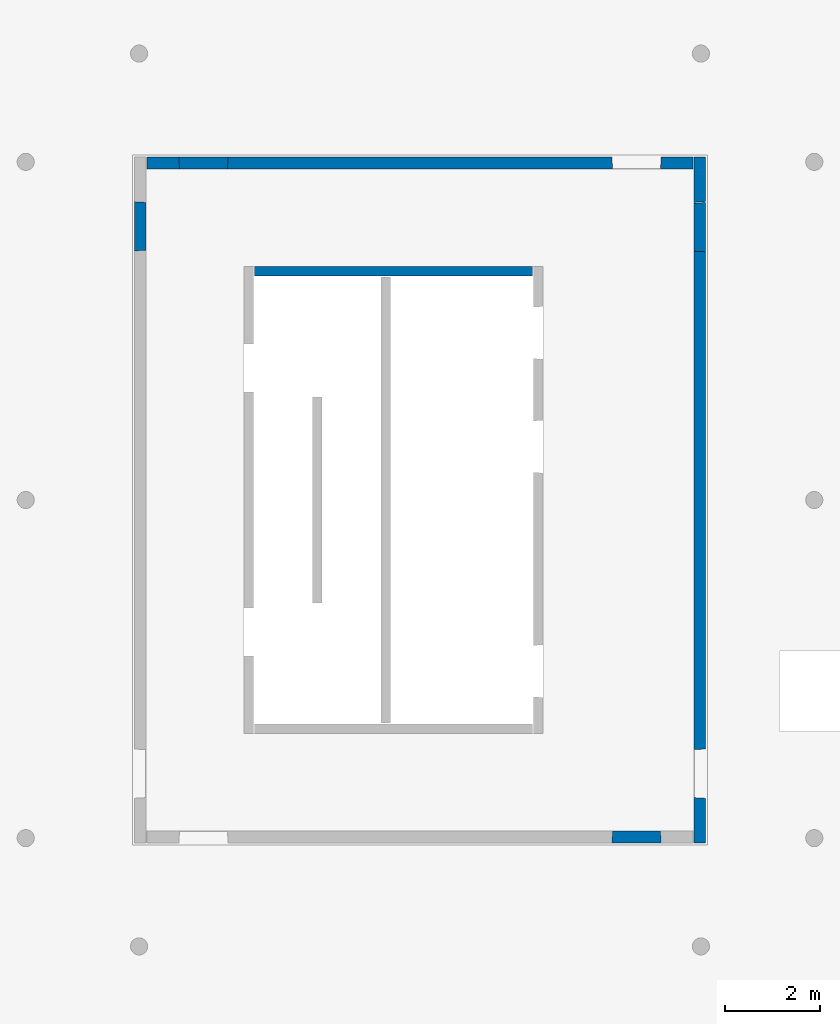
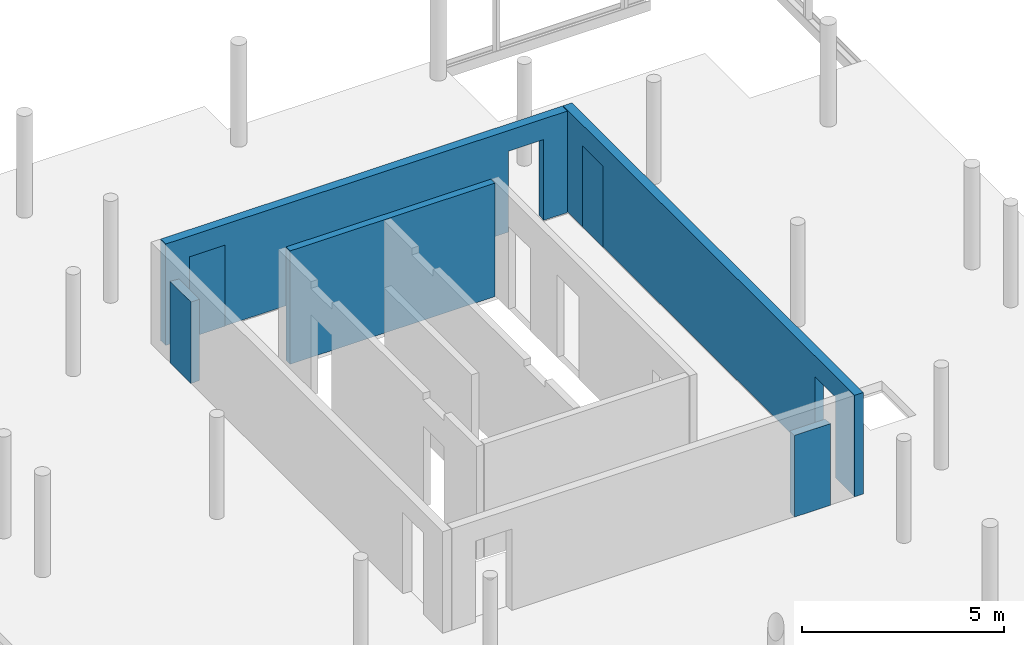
# One storey, part 6 of 7: 7 walls, 4 openings.
"""IFC2X3 building model written with IfcOpenShell, lengths in millimetres."""

from ifc_helpers import new_model, entity, si_unit, converted_unit, derived_unit, direction, frame, frame_2d, origin, place, context, subcontext, project, spatial, polyline, rectangle, extrude, clip, bounded_halfspace, faceted_brep, material, layer, layer_set, layer_usage, type_object, element, save


model = new_model("IFC2X3")

# Units and contexts
model_context = context("Model", 3, precision=0.01, world=origin(), true_north=direction((6.12303176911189e-17, 1.0)))
body_context = subcontext(model_context, "Body", "Model", "MODEL_VIEW")
ifc_project = project(units=[si_unit("LENGTHUNIT", "METRE", prefix="MILLI"), si_unit("AREAUNIT", "SQUARE_METRE"), si_unit("VOLUMEUNIT", "CUBIC_METRE"), converted_unit("PLANEANGLEUNIT", "DEGREE", entity("IfcRatioMeasure", 0.0174532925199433), si_unit("PLANEANGLEUNIT", "RADIAN"), dimensions=[0, 0, 0, 0, 0, 0, 0]), si_unit("MASSUNIT", "GRAM", prefix="KILO"), derived_unit("MASSDENSITYUNIT", [(si_unit("MASSUNIT", "GRAM", prefix="KILO"), 1), (si_unit("LENGTHUNIT", "METRE"), -3)]), si_unit("TIMEUNIT", "SECOND"), si_unit("FREQUENCYUNIT", "HERTZ"), si_unit("THERMODYNAMICTEMPERATUREUNIT", "DEGREE_CELSIUS"), derived_unit("THERMALTRANSMITTANCEUNIT", [(si_unit("MASSUNIT", "GRAM", prefix="KILO"), 1), (si_unit("THERMODYNAMICTEMPERATUREUNIT", "KELVIN"), -1), (si_unit("TIMEUNIT", "SECOND"), -3)]), derived_unit("VOLUMETRICFLOWRATEUNIT", [(si_unit("LENGTHUNIT", "METRE"), 3), (si_unit("TIMEUNIT", "SECOND"), -1)]), si_unit("ELECTRICCURRENTUNIT", "AMPERE"), si_unit("ELECTRICVOLTAGEUNIT", "VOLT"), si_unit("POWERUNIT", "WATT"), si_unit("FORCEUNIT", "NEWTON", prefix="KILO"), si_unit("ILLUMINANCEUNIT", "LUX"), si_unit("LUMINOUSFLUXUNIT", "LUMEN"), si_unit("LUMINOUSINTENSITYUNIT", "CANDELA"), derived_unit("USERDEFINED", [(si_unit("MASSUNIT", "GRAM", prefix="KILO"), -1), (si_unit("LENGTHUNIT", "METRE"), -2), (si_unit("TIMEUNIT", "SECOND"), 3), (si_unit("LUMINOUSFLUXUNIT", "LUMEN"), 1)]), derived_unit("LINEARVELOCITYUNIT", [(si_unit("LENGTHUNIT", "METRE"), 1), (si_unit("TIMEUNIT", "SECOND"), -1)]), si_unit("PRESSUREUNIT", "PASCAL"), derived_unit("USERDEFINED", [(si_unit("LENGTHUNIT", "METRE"), -2), (si_unit("MASSUNIT", "GRAM", prefix="KILO"), 1), (si_unit("TIMEUNIT", "SECOND"), -2)])], contexts=[model_context])

# Site, building, storey
site_placement = place(None, origin())
site = spatial("IfcSite", under=ifc_project, at=site_placement, Name="Default", CompositionType="ELEMENT")
building_placement = place(site_placement, origin())
building = spatial("IfcBuilding", under=site, at=building_placement, Name="niet gebruiken", CompositionType="ELEMENT")
storey_placement = place(building_placement, frame((0.0, 0.0, 168300.0)))
storey = spatial("IfcBuildingStorey", under=building, at=storey_placement, Name="54 vierenvijftigste verdieping", CompositionType="ELEMENT", Elevation=168300.0)

# Wall
ifc_material_1 = material(Name="NLRS_f2_beton prefab")
ifc_layer_1 = layer(ifc_material_1, 200.0)
ifc_layer_set_1 = layer_set([ifc_layer_1], Name="Basic Wall:NLRS_22.21_WA_beton prefab d=200_gen")
ifc_layer_usage_1 = layer_usage(ifc_layer_set_1, "AXIS2", "NEGATIVE", 100.0)
wall_type_1 = type_object("IfcWallType", Name="Basic Wall:NLRS_22.21_WA_beton prefab d=200_gen", PredefinedType="STANDARD", material=ifc_layer_set_1)
wall_1_placement = place(storey_placement, frame((138270.0, 22300.0, -50.0)))
element("IfcWallStandardCase", 1, at=wall_1_placement, inside=storey, type_object=wall_type_1, material=ifc_layer_usage_1, Name="Basic Wall:NLRS_22.21_WA_beton prefab d=200_gen", ObjectType="Basic Wall:NLRS_22.21_WA_beton prefab d=200_gen", context=body_context, shape_type="SweptSolid", body=[
    extrude(rectangle(XDim=5839.99999999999, YDim=199.999999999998, at=frame_2d((2919.99999999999, -7.60280727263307e-13), x_axis=(-1.0, 0.0))), origin(), (0.0, 0.0, 1.0), 3419.99999999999),
])

# Wall, openings
ifc_layer_2 = layer(ifc_material_1, 250.0)
ifc_layer_set_2 = layer_set([ifc_layer_2], Name="Basic Wall:NLRS_22.21_WA_beton prefab d=250_gen")
ifc_layer_usage_2 = layer_usage(ifc_layer_set_2, "AXIS2", "NEGATIVE", 125.0)
wall_type_2 = type_object("IfcWallType", Name="Basic Wall:NLRS_22.21_WA_beton prefab d=250_gen", PredefinedType="STANDARD", material=ifc_layer_set_2)
wall_2_placement = place(storey_placement, frame((147625.0, 24700.0, -60.0), z_axis=(0.0, 0.0, 1.0), x_axis=(0.0, -1.0, 0.0)))
wall_2 = element("IfcWallStandardCase", 2, at=wall_2_placement, inside=storey, type_object=wall_type_2, material=ifc_layer_usage_2, Name="Basic Wall:NLRS_22.21_WA_beton prefab d=250_gen", ObjectType="Basic Wall:NLRS_22.21_WA_beton prefab d=250_gen", context=body_context, shape_type="Clipping", body=[
    clip(extrude(rectangle(XDim=14400.0, YDim=250.000000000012, at=frame_2d((7200.0, 0.0), x_axis=(-1.0, 0.0))), origin(), (0.0, 0.0, 1.0), 3060.0), bounded_halfspace(frame((1974.0, -125.0, 2438.0), z_axis=(0.998204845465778, -0.0598922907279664, 0.0), x_axis=(0.0, 0.0, -1.0)), True, frame((1974.0, -125.0, 2438.0), z_axis=(0.998204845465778, -0.0598922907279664, 0.0), x_axis=(0.0, 0.0, -1.0)), polyline([(0.0, 0.0), (2438.0, 0.0), (2438.0, 250.449595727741), (-15.0, 250.449595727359), (0.0, 0.0)]))),
])
opening_1_placement = place(wall_2_placement, frame((13465.0, -125.0, -10.0)))
element("IfcOpeningElement", 3, at=opening_1_placement, cuts=wall_2, Name="Basic Wall:NLRS_22.21_WA_beton prefab d=250_gen", ObjectType="Opening", context=body_context, shape_type="Brep", body=[
    faceted_brep([(-1036.0, 250.0, 2463.0), (-1036.0, 250.0, 0.0), (-1021.0, 0.0, 0.0), (-1021.0, 0.0, 2448.0), (0.0, 250.0, 0.0), (-15.0, 0.0, 0.0), (-15.0, 0.0, 2448.0), (0.0, 250.0, 2463.0)], [[[0, 1, 2, 3]], [[1, 4, 5, 2]], [[6, 3, 2, 5]], [[7, 4, 1, 0]], [[7, 0, 3, 6]], [[4, 7, 6, 5]]]),
])
opening_2_placement = place(wall_2_placement, frame((1971.0, -125.0, -10.0)))
element("IfcOpeningElement", 4, at=opening_2_placement, cuts=wall_2, Name="Basic Wall:NLRS_22.21_WA_beton prefab d=250_gen", ObjectType="Opening", context=body_context, shape_type="Brep", body=[
    faceted_brep([(-1036.0, 250.0, 2463.0), (-1036.0, 250.0, 0.0), (-1021.0, 0.0, 0.0), (-1021.0, 0.0, 2448.0), (0.0, 250.0, 0.0), (-15.0, 0.0, 0.0), (-15.0, 0.0, 2448.0), (0.0, 250.0, 2463.0)], [[[0, 1, 2, 3]], [[1, 4, 5, 2]], [[6, 3, 2, 5]], [[7, 4, 1, 0]], [[7, 0, 3, 6]], [[4, 7, 6, 5]]]),
])

ifc_layer_usage_3 = layer_usage(ifc_layer_set_2, "AXIS2", "NEGATIVE", 125.0)
wall_3_placement = place(storey_placement, frame((136020.0, 24575.0, -60.0)))
wall_3 = element("IfcWallStandardCase", 5, at=wall_3_placement, inside=storey, type_object=wall_type_2, material=ifc_layer_usage_3, Name="Basic Wall:NLRS_22.21_WA_beton prefab d=250_gen", ObjectType="Basic Wall:NLRS_22.21_WA_beton prefab d=250_gen", context=body_context, shape_type="SweptSolid", body=[
    extrude(rectangle(XDim=11460.0, YDim=250.000000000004, at=frame_2d((5730.00000000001, 0.0), x_axis=(-1.0, 0.0))), origin(), (0.0, 0.0, 1.0), 3060.0),
])
opening_3_placement = place(wall_3_placement, frame((665.0, -125.0, -10.0)))
element("IfcOpeningElement", 6, at=opening_3_placement, cuts=wall_3, Name="Basic Wall:NLRS_22.21_WA_beton prefab d=250_gen", ObjectType="Opening", context=body_context, shape_type="Brep", body=[
    faceted_brep([(0.0, 250.0, 2463.0), (0.0, 250.0, 0.0), (15.0, 0.0, 0.0), (15.0, 0.0, 2448.0), (1036.0, 250.0, 0.0), (1021.0, 0.0, 0.0), (1021.0, 0.0, 2448.0), (1036.0, 250.0, 2463.0)], [[[0, 1, 2, 3]], [[1, 4, 5, 2]], [[6, 3, 2, 5]], [[7, 4, 1, 0]], [[7, 0, 3, 6]], [[4, 7, 6, 5]]]),
])
opening_4_placement = place(wall_3_placement, frame((9759.0, -125.0, -10.0)))
element("IfcOpeningElement", 7, at=opening_4_placement, cuts=wall_3, Name="Basic Wall:NLRS_22.21_WA_beton prefab d=250_gen", ObjectType="Opening", context=body_context, shape_type="Brep", body=[
    faceted_brep([(0.0, 250.0, 2463.0), (0.0, 250.0, 0.0), (15.0, 0.0, 0.0), (15.0, 0.0, 2448.0), (1036.0, 250.0, 0.0), (1021.0, 0.0, 0.0), (1021.0, 0.0, 2448.0), (1036.0, 250.0, 2463.0)], [[[0, 1, 2, 3]], [[1, 4, 5, 2]], [[6, 3, 2, 5]], [[7, 4, 1, 0]], [[7, 0, 3, 6]], [[4, 7, 6, 5]]]),
])

# Walls
ifc_material_2 = material(Name="NLRS_f2_beton prefab dichtstorten")
wall_type_3 = type_object("IfcWallType", Name="Parametric Wall:NLRS_22.21_WA_beton prefab d=250 1006x2448_gen", PredefinedType="NOTDEFINED", material=ifc_material_2)
wall_4_placement = place(storey_placement, frame((136685.0, 24450.0, -70.0)))
element("IfcWall", 8, at=wall_4_placement, inside=storey, type_object=wall_type_3, material=ifc_material_2, Name="Parametric Wall:NLRS_22.21_WA_beton prefab d=250 1006x2448_gen", ObjectType="Parametric Wall:NLRS_22.21_WA_beton prefab d=250 1006x2448_gen", context=body_context, shape_type="Brep", body=[
    faceted_brep([(1036.0, 250.0, 2463.0), (1036.0, 250.0, 10.0), (1036.0, 250.0, 0.0), (0.0, 250.0, 0.0), (0.0, 250.0, 10.0), (0.0, 250.0, 2463.0), (1021.0, 0.0, 2448.0), (15.0, 0.0, 2448.0), (15.0, 0.0, 10.0), (15.0, 0.0, 0.0), (1021.0, 0.0, 0.0), (1021.0, 0.0, 10.0)], [[[0, 1, 2, 3, 4, 5]], [[6, 7, 8, 9, 10, 11]], [[6, 11, 10, 2, 1, 0]], [[9, 8, 7, 5, 4, 3]], [[10, 9, 3, 2]], [[7, 6, 0, 5]]]),
])
wall_5_placement = place(storey_placement, frame((145779.0, 10300.0, -70.0)))
element("IfcWall", 9, at=wall_5_placement, inside=storey, type_object=wall_type_3, material=ifc_material_2, Name="Parametric Wall:NLRS_22.21_WA_beton prefab d=250 1006x2448_gen", ObjectType="Parametric Wall:NLRS_22.21_WA_beton prefab d=250 1006x2448_gen", context=body_context, shape_type="Brep", body=[
    faceted_brep([(0.0, 0.0, 2463.0), (0.0, 0.0, 10.0), (0.0, 0.0, 0.0), (1036.0, 0.0, 0.0), (1036.0, 0.0, 10.0), (1036.0, 0.0, 2463.0), (15.0, 250.0, 2448.0), (1021.0, 250.0, 2448.0), (1021.0, 250.0, 10.0), (1021.0, 250.0, 0.0), (15.0, 250.0, 0.0), (15.0, 250.0, 10.0)], [[[0, 1, 2, 3, 4, 5]], [[6, 7, 8, 9, 10, 11]], [[6, 11, 10, 2, 1, 0]], [[9, 8, 7, 5, 4, 3]], [[10, 9, 3, 2]], [[7, 6, 0, 5]]]),
])
wall_6_placement = place(storey_placement, frame((147500.0, 22711.0, -70.0), z_axis=(0.0, 0.0, 1.0), x_axis=(0.0, 1.0, 0.0)))
element("IfcWall", 10, at=wall_6_placement, inside=storey, type_object=wall_type_3, material=ifc_material_2, Name="Parametric Wall:NLRS_22.21_WA_beton prefab d=250 1006x2448_gen", ObjectType="Parametric Wall:NLRS_22.21_WA_beton prefab d=250 1006x2448_gen", context=body_context, shape_type="Brep", body=[
    faceted_brep([(0.0, -250.0, 2463.0), (0.0, -250.0, 10.0), (0.0, -250.0, 0.0), (1036.0, -250.0, 0.0), (1036.0, -250.0, 2463.0), (15.0, 0.0, 2448.0), (1021.0, 0.0, 2448.0), (1021.0, 0.0, 0.0), (15.0, 0.0, 0.0), (15.0, 0.0, 10.0)], [[[0, 1, 2, 3, 4]], [[5, 6, 7, 8, 9]], [[5, 9, 8, 2, 1, 0]], [[7, 6, 4, 3]], [[8, 7, 3, 2]], [[6, 5, 0, 4]]]),
])
wall_7_placement = place(storey_placement, frame((135750.0, 22729.0, -70.0), z_axis=(0.0, 0.0, 1.0), x_axis=(0.0, 1.0, 0.0)))
element("IfcWall", 11, at=wall_7_placement, inside=storey, type_object=wall_type_3, material=ifc_material_2, Name="Parametric Wall:NLRS_22.21_WA_beton prefab d=250 1006x2448_gen", ObjectType="Parametric Wall:NLRS_22.21_WA_beton prefab d=250 1006x2448_gen", context=body_context, shape_type="Brep", body=[
    faceted_brep([(1036.0, 0.0, 2463.0), (1036.0, 0.0, 10.0), (1036.0, 0.0, 0.0), (0.0, 0.0, 0.0), (0.0, 0.0, 10.0), (0.0, 0.0, 2463.0), (1021.0, -250.0, 2448.0), (15.0, -250.0, 2448.0), (15.0, -250.0, 10.0), (15.0, -250.0, 0.0), (1021.0, -250.0, 0.0), (1021.0, -250.0, 10.0)], [[[0, 1, 2, 3, 4, 5]], [[6, 7, 8, 9, 10, 11]], [[6, 11, 10, 2, 1, 0]], [[9, 8, 7, 5, 4, 3]], [[10, 9, 3, 2]], [[7, 6, 0, 5]]]),
])

save(model, "model.ifc")
